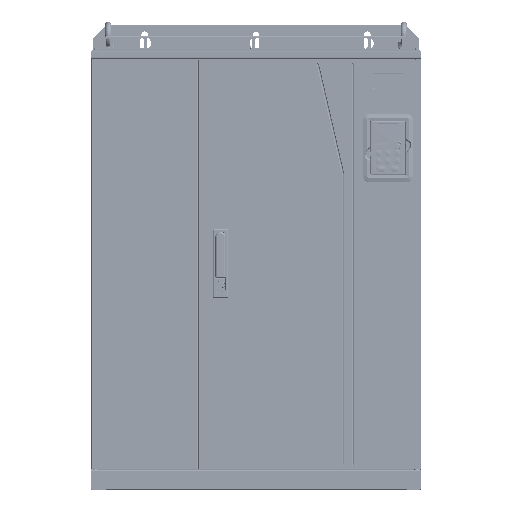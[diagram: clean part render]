
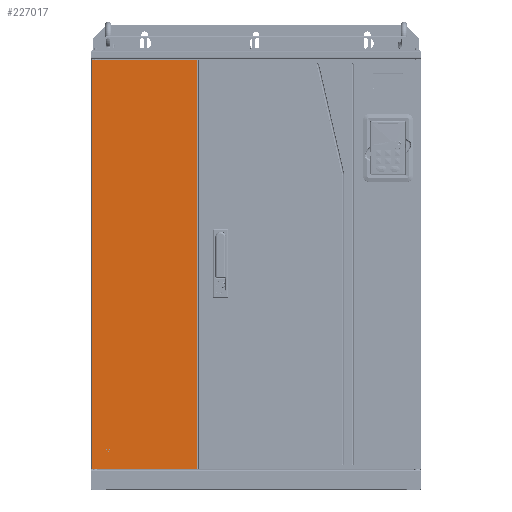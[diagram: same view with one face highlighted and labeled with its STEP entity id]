
A CAD part, top view. The second image highlights one B-rep face of the part: STEP entity #227017.
In plain terms, the highlighted planar face has unit normal (0, 0, 1) as drawn and (0, 1, 0) by its records, which use the part's own axes.
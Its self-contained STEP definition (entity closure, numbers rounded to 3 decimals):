
#225645=DIRECTION('',(0.,0.,1.));
#225646=VECTOR('',#225645,216.6);
#225647=CARTESIAN_POINT('',(-421.3,0.,-108.3));
#225648=LINE('',#225647,#225646);
#225717=DIRECTION('',(1.,0.,0.));
#225718=VECTOR('',#225717,842.6);
#225719=CARTESIAN_POINT('',(-421.3,0.,108.3));
#225720=LINE('',#225719,#225718);
#225763=DIRECTION('',(0.,0.,-1.));
#225764=VECTOR('',#225763,216.6);
#225765=CARTESIAN_POINT('',(421.3,0.,108.3));
#225766=LINE('',#225765,#225764);
#226011=DIRECTION('',(1.,0.,0.));
#226012=VECTOR('',#226011,842.6);
#226013=CARTESIAN_POINT('',(-421.3,0.,-108.3));
#226014=LINE('',#226013,#226012);
#226774=CARTESIAN_POINT('',(-421.3,0.,-108.3));
#226775=VERTEX_POINT('',#226774);
#226778=CARTESIAN_POINT('',(-421.3,0.,108.3));
#226779=VERTEX_POINT('',#226778);
#226806=CARTESIAN_POINT('',(421.3,0.,108.3));
#226807=VERTEX_POINT('',#226806);
#226810=CARTESIAN_POINT('',(421.3,0.,-108.3));
#226811=VERTEX_POINT('',#226810);
#227002=CARTESIAN_POINT('',(0.,0.,0.));
#227003=DIRECTION('',(0.,1.,0.));
#227004=DIRECTION('',(1.,0.,0.));
#227005=AXIS2_PLACEMENT_3D('',#227002,#227003,#227004);
#227006=PLANE('',#227005);
#227008=ORIENTED_EDGE('',*,*,#227007,.F.);
#227010=ORIENTED_EDGE('',*,*,#227009,.T.);
#227012=ORIENTED_EDGE('',*,*,#227011,.F.);
#227014=ORIENTED_EDGE('',*,*,#227013,.F.);
#227015=EDGE_LOOP('',(#227008,#227010,#227012,#227014));
#227016=FACE_OUTER_BOUND('',#227015,.F.);
#227017=ADVANCED_FACE('',(#227016),#227006,.T.);
#227007=EDGE_CURVE('',#226775,#226779,#225648,.T.);
#227009=EDGE_CURVE('',#226775,#226811,#226014,.T.);
#227011=EDGE_CURVE('',#226807,#226811,#225766,.T.);
#227013=EDGE_CURVE('',#226779,#226807,#225720,.T.);
